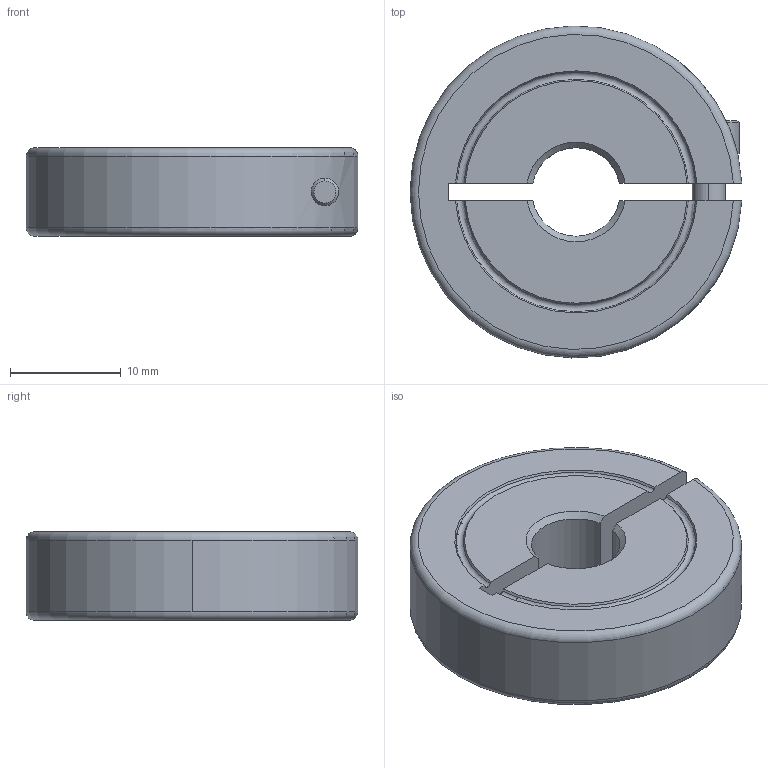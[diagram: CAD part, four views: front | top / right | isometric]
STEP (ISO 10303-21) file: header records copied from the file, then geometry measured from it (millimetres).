
FILE_DESCRIPTION (( 'STEP AP214' ), '1' );
FILE_NAME ('Ruland_ENCL30-8MM-A.step', '2018-10-02T19:13:28', ( '' ), ( '' ), 'SwSTEP 2.0', 'SolidWorks 2018', '' );
FILE_SCHEMA (( 'AUTOMOTIVE_DESIGN' ));
Length unit declared in the file: inch
Products named in the file (3): CAP SCREWS_CFM3_10; ENCLxx-xx-x_ENCL30-8MM-A; Ruland_ENCL30-8MM-A
Assembly tree (2 placements, depth 2):
  Ruland_ENCL30-8MM-A
    ENCLxx-xx-x_ENCL30-8MM-A
    CAP SCREWS_CFM3_10
Bounding box: 29.98 x 29.99 x 8 mm (x, y, z)
Volume: 4900.6 mm3; surface area: 2753.4 mm2
Topology: 2 solids, 2 shells, 53 faces, 132 edges, 86 vertices
Faces by surface type: plane 20, cylinder 15, cone 12, torus 6
Entity records: 1834 total; most frequent: CARTESIAN_POINT 435, DIRECTION 274, ORIENTED_EDGE 264, EDGE_CURVE 132, AXIS2_PLACEMENT_3D 105, VERTEX_POINT 86, VECTOR 64, LINE 64
